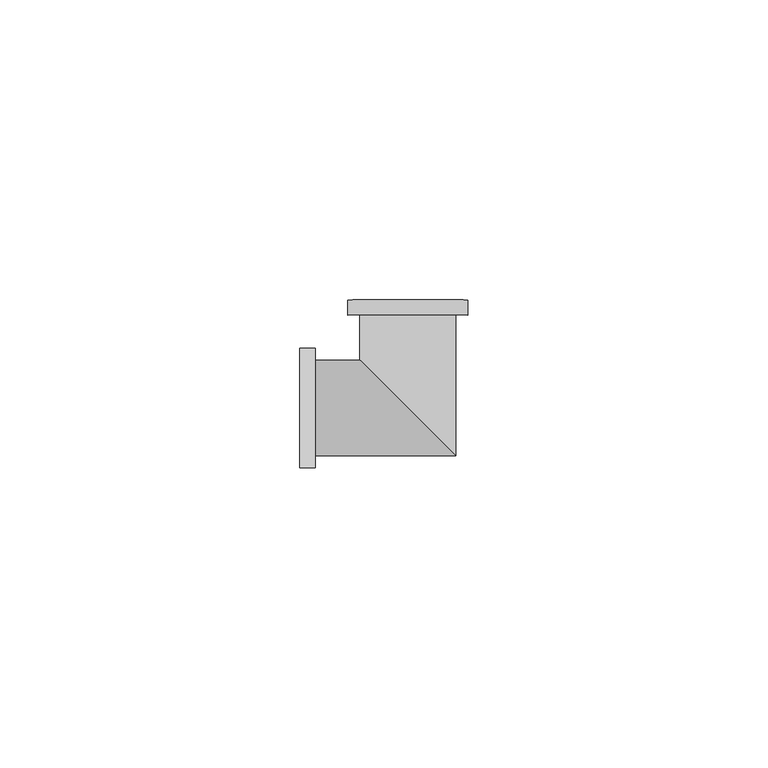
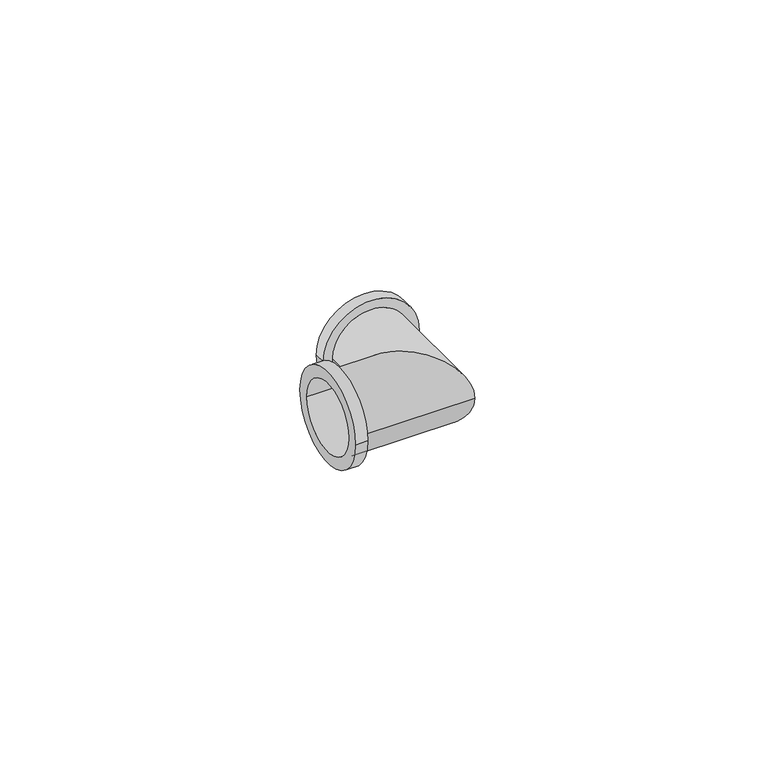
"""IFC4 building model written with IfcOpenShell, lengths in millimetres: pipe fitting geometry, БИР ПЕКС_КМП_Водорозетка : Водорозетка 1/2''x16 КМП."""

from ifc_helpers import new_model, si_unit, frame, origin, place, context, project, spatial, polyline, circle_curve, ellipse_curve, source, transform, mapped, element, save
from ifc_brep_helpers import plane_surface, cylinder_surface, revolved_surface, advanced_brep


def pipe_fitting_cd237506(model_context):
    return source(origin(), model_context, "Body", "AdvancedBrep", [
        advanced_brep(
        [(-18.0, -10.0, 0.0), (-18.0, 10.0, 0.0), (-18.0, -7.5, 0.0), (-18.0, 7.5, 0.0), (8.0, -8.0, 0.0), (-8.0, 8.0, 0.0), (-15.4507177, 8.0, 0.0), (-15.4507177, -8.0, 0.0), (-10.0, 18.0, 0.0), (10.0, 18.0, 0.0), (7.5, 18.0, 0.0), (-7.5, 18.0, 0.0), (8.0, 15.5, 0.0), (-8.0, 15.5, 0.0), (-15.4507177, -10.0, 0.0), (-15.4507177, 10.0, 0.0), (-10.0, 15.5, 0.0), (10.0, 15.5, 0.0), (-15.4507177, -7.5, 0.0), (7.5, -7.5, 0.0), (-7.5, 7.5, 0.0), (-15.4507177, 7.5, 0.0), (-7.5, 15.5, 0.0), (7.5, 15.5, 0.0)],
        [
            (0, 1, circle_curve(frame((-18.0, 0.0, 0.0), z_axis=(-1.0, 0.0, 0.0), x_axis=(0.0, 1.0, 0.0)), 10.0)),
            (1, 0, circle_curve(frame((-18.0, 0.0, 0.0), z_axis=(-1.0, 0.0, 0.0), x_axis=(0.0, 1.0, 0.0)), 10.0)),
            (2, 3, circle_curve(frame((-18.0, 0.0, 0.0), z_axis=(1.0, 0.0, 0.0), x_axis=(0.0, 1.0, 0.0)), 7.5)),
            (3, 2, circle_curve(frame((-18.0, 0.0, 0.0), z_axis=(1.0, 0.0, 0.0), x_axis=(0.0, 1.0, 0.0)), 7.5)),
            (4, 5, ellipse_curve(frame((0.0, 0.0, 0.0), z_axis=(-0.7071067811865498, -0.7071067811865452, 0.0), x_axis=(-0.7071067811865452, 0.7071067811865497, 0.0)), 11.3137085, 8.0)),
            (5, 6),
            (6, 7, circle_curve(frame((-15.4507177, 0.0, 0.0), z_axis=(1.0, 0.0, 0.0), x_axis=(0.0, 1.0, 0.0)), 8.0)),
            (7, 4),
            (5, 4, ellipse_curve(frame((0.0, 0.0, 0.0), z_axis=(-0.7071067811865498, -0.7071067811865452, 0.0), x_axis=(-0.7071067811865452, 0.7071067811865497, 0.0)), 11.3137085, 8.0)),
            (7, 6, circle_curve(frame((-15.4507177, 0.0, 0.0), z_axis=(1.0, 0.0, 0.0), x_axis=(0.0, 1.0, 0.0)), 8.0)),
            (8, 9, circle_curve(frame((0.0, 18.0, 0.0), z_axis=(0.0, 1.0, 0.0), x_axis=(1.0, 0.0, 0.0)), 10.0)),
            (9, 8, circle_curve(frame((0.0, 18.0, 0.0), z_axis=(0.0, 1.0, 0.0), x_axis=(1.0, 0.0, 0.0)), 10.0)),
            (10, 11, circle_curve(frame((0.0, 18.0, 0.0), z_axis=(0.0, -1.0, 0.0), x_axis=(-1.0, 0.0, 0.0)), 7.5)),
            (11, 10, circle_curve(frame((0.0, 18.0, 0.0), z_axis=(0.0, -1.0, 0.0), x_axis=(-1.0, 0.0, 0.0)), 7.5)),
            (4, 12),
            (12, 13, circle_curve(frame((0.0, 15.5, 0.0), z_axis=(0.0, -1.0, 0.0), x_axis=(-1.0, 0.0, 0.0)), 8.0)),
            (13, 5),
            (13, 12, circle_curve(frame((0.0, 15.5, 0.0), z_axis=(0.0, -1.0, 0.0), x_axis=(-1.0, 0.0, 0.0)), 8.0)),
            (14, 15, circle_curve(frame((-15.4507177, 0.0, 0.0), z_axis=(1.0, 0.0, 0.0), x_axis=(0.0, 1.0, 0.0)), 10.0)),
            (15, 14, circle_curve(frame((-15.4507177, 0.0, 0.0), z_axis=(1.0, 0.0, 0.0), x_axis=(0.0, 1.0, 0.0)), 10.0)),
            (14, 0),
            (1, 15),
            (16, 17, circle_curve(frame((0.0, 15.5, 0.0), z_axis=(0.0, -1.0, 0.0), x_axis=(1.0, 0.0, 0.0)), 10.0)),
            (17, 16, circle_curve(frame((0.0, 15.5, 0.0), z_axis=(0.0, -1.0, 0.0), x_axis=(1.0, 0.0, 0.0)), 10.0)),
            (16, 8),
            (9, 17),
            (2, 18),
            (18, 19),
            (19, 20, ellipse_curve(frame((0.0, 0.0, 0.0), z_axis=(0.7071067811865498, 0.7071067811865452, 0.0), x_axis=(0.7071067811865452, -0.7071067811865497, 0.0)), 10.6066017, 7.5)),
            (20, 21),
            (21, 3),
            (20, 19, ellipse_curve(frame((0.0, 0.0, 0.0), z_axis=(0.7071067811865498, 0.7071067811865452, 0.0), x_axis=(0.7071067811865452, -0.7071067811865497, 0.0)), 10.6066017, 7.5)),
            (11, 22),
            (22, 20),
            (19, 23),
            (23, 10),
        ],
        [
            plane_surface(frame((-18.0, 0.0, 0.0), z_axis=(-1.0, 0.0, 0.0), x_axis=(0.0, 0.0, 1.0))),
            cylinder_surface(frame((-18.0, 0.0, 0.0), z_axis=(-1.0, 0.0, 0.0), x_axis=(0.0, 1.0, 0.0)), 8.0),
            plane_surface(frame((0.0, 18.0, 0.0), z_axis=(0.0, 1.0, 0.0), x_axis=(0.0, 0.0, 1.0))),
            cylinder_surface(frame((0.0, 0.0, 0.0), z_axis=(0.0, -1.0, 0.0), x_axis=(-1.0, 0.0, 0.0)), 8.0),
            plane_surface(frame((-15.4507177, 10.0, 0.0), z_axis=(1.0, 0.0, 0.0), x_axis=(0.0, 0.0, 1.0))),
            cylinder_surface(frame((-18.0, 0.0, 0.0), z_axis=(1.0, 0.0, 0.0), x_axis=(0.0, 1.0, 0.0)), 10.0),
            plane_surface(frame((10.0, 15.5, 0.0), z_axis=(0.0, -1.0, 0.0), x_axis=(0.0, 0.0, 1.0))),
            cylinder_surface(frame((0.0, 18.0, 0.0), z_axis=(0.0, -1.0, 0.0), x_axis=(1.0, 0.0, 0.0)), 10.0),
            revolved_surface(polyline([(7.5, 7.5, 0.0), (-18.0, 7.5, 0.0)]), (-18.0, 0.0, 0.0), (1.0, 0.0, 0.0)),
            revolved_surface(polyline([(-7.5, 18.0, 0.0), (-7.5, -7.5, 0.0)]), (0.0, 0.0, 0.0), (0.0, 1.0, 0.0)),
        ],
        [
            (0, [[1, 2], [3, 4]]),
            (1, [[5, 6, 7, 8]]),
            (1, [[9, -8, 10, -6]]),
            (2, [[11, 12], [13, 14]]),
            (3, [[-5, 15, 16, 17]]),
            (3, [[-9, -17, 18, -15]]),
            (4, [[19, 20], [-7, -10]]),
            (5, [[-19, 21, -2, 22]]),
            (5, [[-20, -22, -1, -21]]),
            (6, [[23, 24], [-16, -18]]),
            (7, [[-23, 25, -12, 26]]),
            (7, [[-24, -26, -11, -25]]),
            (8, [[-3, 27, 28, 29, 30, 31]]),
            (8, [[-4, -31, -30, 32, -28, -27]]),
            (9, [[-14, 33, 34, -29, 35, 36]]),
            (9, [[-13, -36, -35, -32, -34, -33]]),
        ],
    ),
    ])


if __name__ == "__main__":
    model = new_model("IFC4")
    model_context = context("Model", 3, world=origin())
    ifc_project = project(units=[si_unit("LENGTHUNIT", "METRE", prefix="MILLI")], contexts=[model_context])
    site = spatial("IfcSite", under=ifc_project)
    building = spatial("IfcBuilding", under=site)
    placement = place(None, origin())
    pipe_fitting_shape = pipe_fitting_cd237506(model_context)
    element("IfcPipeFitting", 1, ObjectType="БИР ПЕКС_КМП_Водорозетка : Водорозетка 1/2''x16 КМП", at=placement, inside=building, context=model_context, shape_type="MappedRepresentation", body=[
        mapped(pipe_fitting_shape, transform((0.0, 0.0, 0.0), x_axis=(1.0, 0.0, 0.0), y_axis=(0.0, 1.0, 0.0), z_axis=(0.0, 0.0, 1.0))),
    ])
    save(model, "model.ifc")
